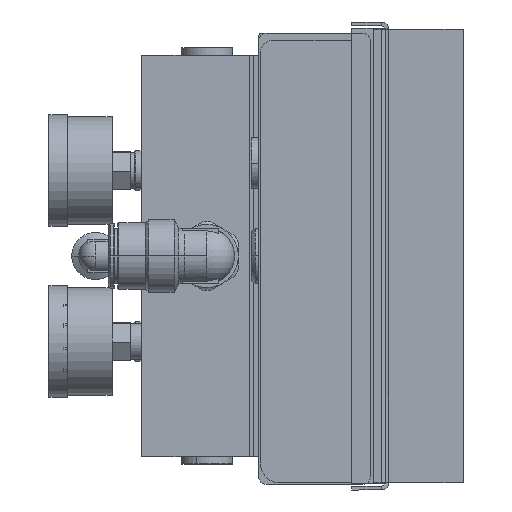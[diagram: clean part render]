
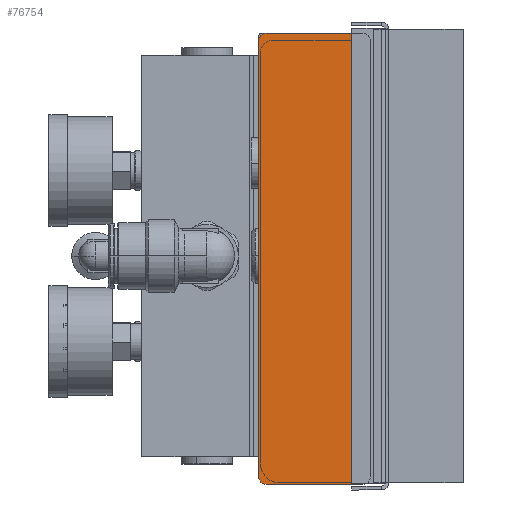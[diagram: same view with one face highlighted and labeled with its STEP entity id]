
A CAD part, left-side view. The second image highlights one B-rep face of the part: STEP entity #76754.
In plain terms, the highlighted planar face has unit normal (-1, 0, 0).
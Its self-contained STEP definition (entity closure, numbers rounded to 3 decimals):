
#3297 = AXIS2_PLACEMENT_3D ( 'NONE', #63768, #63770, #63772 ) ;
#3298 = AXIS2_PLACEMENT_3D ( 'NONE', #63786, #63788, #63790 ) ;
#3301 = AXIS2_PLACEMENT_3D ( 'NONE', #63814, #63816, #63818 ) ;
#3302 = AXIS2_PLACEMENT_3D ( 'NONE', #63823, #63825, #63827 ) ;
#7522 = AXIS2_PLACEMENT_3D ( 'NONE', #45455, #45456, #45458 ) ;
#10588 = EDGE_LOOP ( 'NONE', ( #50174, #50492, #50443, #50288, #50338, #50393, #50544, #50516 ) ) ;
#45426 = PLANE ( 'NONE',  #7522 ) ;
#45455 = CARTESIAN_POINT ( 'NONE',  ( -584.336, 41.951, 65.284 ) ) ;
#45456 = DIRECTION ( 'NONE',  ( 1., 0., 0. ) ) ;
#45458 = DIRECTION ( 'NONE',  ( 0., 0., 1. ) ) ;
#46105 = FACE_OUTER_BOUND ( 'NONE', #10588, .T. ) ;
#50174 = ORIENTED_EDGE ( 'NONE', *, *, #66473, .T. ) ;
#50288 = ORIENTED_EDGE ( 'NONE', *, *, #66480, .T. ) ;
#50338 = ORIENTED_EDGE ( 'NONE', *, *, #66461, .T. ) ;
#50393 = ORIENTED_EDGE ( 'NONE', *, *, #66488, .T. ) ;
#50443 = ORIENTED_EDGE ( 'NONE', *, *, #66477, .T. ) ;
#50492 = ORIENTED_EDGE ( 'NONE', *, *, #66484, .T. ) ;
#50516 = ORIENTED_EDGE ( 'NONE', *, *, #66490, .T. ) ;
#50544 = ORIENTED_EDGE ( 'NONE', *, *, #66465, .T. ) ;
#60497 = CARTESIAN_POINT ( 'NONE',  ( -584.336, 69.951, 65.284 ) ) ;
#60507 = CARTESIAN_POINT ( 'NONE',  ( -584.336, 43.951, -56.216 ) ) ;
#60549 = CARTESIAN_POINT ( 'NONE',  ( -584.336, 41.951, 63.284 ) ) ;
#60566 = CARTESIAN_POINT ( 'NONE',  ( -584.336, 43.951, 65.284 ) ) ;
#60571 = CARTESIAN_POINT ( 'NONE',  ( -584.336, 71.951, 63.284 ) ) ;
#60587 = CARTESIAN_POINT ( 'NONE',  ( -584.336, 41.951, -54.216 ) ) ;
#60899 = CARTESIAN_POINT ( 'NONE',  ( -584.336, 71.951, -54.216 ) ) ;
#61084 = CARTESIAN_POINT ( 'NONE',  ( -584.336, 69.951, -56.216 ) ) ;
#63704 = CARTESIAN_POINT ( 'NONE',  ( -584.336, 71.951, 65.284 ) ) ;
#63705 = CARTESIAN_POINT ( 'NONE',  ( -584.336, 71.951, 65.284 ) ) ;
#63707 = DIRECTION ( 'NONE',  ( 0., 1., 0. ) ) ;
#63722 = DIRECTION ( 'NONE',  ( 0., 0., -1. ) ) ;
#63744 = CARTESIAN_POINT ( 'NONE',  ( -584.336, 71.951, -56.216 ) ) ;
#63746 = DIRECTION ( 'NONE',  ( 0., -1., 0. ) ) ;
#63753 = CARTESIAN_POINT ( 'NONE',  ( -584.336, 41.951, 65.284 ) ) ;
#63756 = DIRECTION ( 'NONE',  ( 0., 0., 1. ) ) ;
#63768 = CARTESIAN_POINT ( 'NONE',  ( -584.336, 43.951, 63.284 ) ) ;
#63770 = DIRECTION ( 'NONE',  ( -1., 0., 0. ) ) ;
#63772 = DIRECTION ( 'NONE',  ( 0., 0., 1. ) ) ;
#63786 = CARTESIAN_POINT ( 'NONE',  ( -584.336, 43.951, -54.216 ) ) ;
#63788 = DIRECTION ( 'NONE',  ( -1., 0., 0. ) ) ;
#63790 = DIRECTION ( 'NONE',  ( 0., 0., 1. ) ) ;
#63814 = CARTESIAN_POINT ( 'NONE',  ( -584.336, 69.951, 63.284 ) ) ;
#63816 = DIRECTION ( 'NONE',  ( -1., 0., 0. ) ) ;
#63818 = DIRECTION ( 'NONE',  ( 0., 0., 1. ) ) ;
#63823 = CARTESIAN_POINT ( 'NONE',  ( -584.336, 69.951, -54.216 ) ) ;
#63825 = DIRECTION ( 'NONE',  ( -1., 0., 0. ) ) ;
#63827 = DIRECTION ( 'NONE',  ( 0., 0., 1. ) ) ;
#65559 = VERTEX_POINT ( 'NONE', #60497 ) ;
#65569 = VERTEX_POINT ( 'NONE', #60507 ) ;
#65597 = VERTEX_POINT ( 'NONE', #60549 ) ;
#65608 = VERTEX_POINT ( 'NONE', #60566 ) ;
#65611 = VERTEX_POINT ( 'NONE', #60571 ) ;
#65620 = VERTEX_POINT ( 'NONE', #60587 ) ;
#65763 = VERTEX_POINT ( 'NONE', #60899 ) ;
#65865 = VERTEX_POINT ( 'NONE', #61084 ) ;
#66461 = EDGE_CURVE ( 'NONE', #65608, #65559, #68914, .T. ) ;
#66465 = EDGE_CURVE ( 'NONE', #65611, #65763, #68920, .T. ) ;
#66473 = EDGE_CURVE ( 'NONE', #65865, #65569, #68932, .T. ) ;
#66477 = EDGE_CURVE ( 'NONE', #65620, #65597, #68936, .T. ) ;
#66480 = EDGE_CURVE ( 'NONE', #65597, #65608, #68926, .T. ) ;
#66484 = EDGE_CURVE ( 'NONE', #65569, #65620, #68947, .T. ) ;
#66488 = EDGE_CURVE ( 'NONE', #65559, #65611, #68951, .T. ) ;
#66490 = EDGE_CURVE ( 'NONE', #65763, #65865, #68954, .T. ) ;
#68914 = LINE ( 'NONE', #63704, #68917 ) ;
#68917 = VECTOR ( 'NONE', #63707, 1000. ) ;
#68920 = LINE ( 'NONE', #63705, #68925 ) ;
#68925 = VECTOR ( 'NONE', #63722, 1000. ) ;
#68926 = CIRCLE ( 'NONE', #3297, 2. ) ;
#68932 = LINE ( 'NONE', #63744, #68935 ) ;
#68935 = VECTOR ( 'NONE', #63746, 1000. ) ;
#68936 = LINE ( 'NONE', #63753, #68939 ) ;
#68939 = VECTOR ( 'NONE', #63756, 1000. ) ;
#68947 = CIRCLE ( 'NONE', #3298, 2. ) ;
#68951 = CIRCLE ( 'NONE', #3301, 2. ) ;
#68954 = CIRCLE ( 'NONE', #3302, 2. ) ;
#76754 = ADVANCED_FACE ( 'NONE', ( #46105 ), #45426, .F. ) ;
